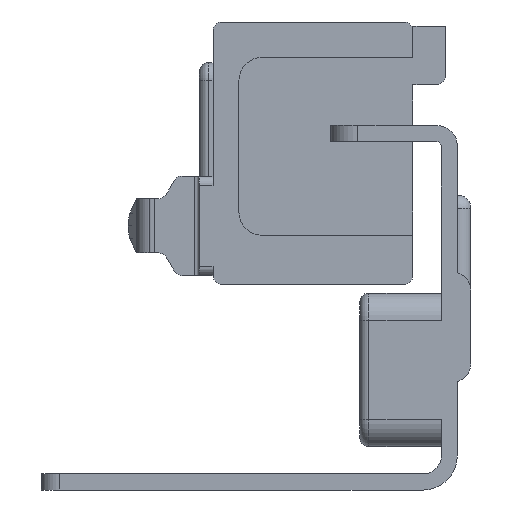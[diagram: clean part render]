
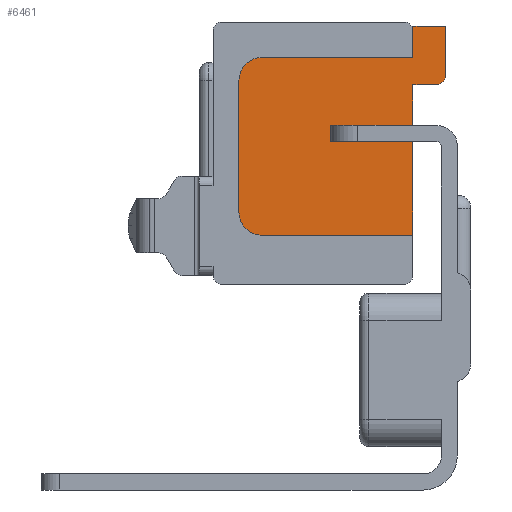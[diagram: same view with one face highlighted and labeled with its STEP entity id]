
A CAD part, left-side view. The second image highlights one B-rep face of the part: STEP entity #6461.
In plain terms, the highlighted planar face has unit normal (-1, 0, 0).
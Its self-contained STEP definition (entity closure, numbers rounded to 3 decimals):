
#41 = ORIENTED_EDGE ( 'NONE', *, *, #593, .F. ) ;
#144 = CARTESIAN_POINT ( 'NONE',  ( -4.3, 1.33, 81.555 ) ) ;
#180 = AXIS2_PLACEMENT_3D ( 'NONE', #1366, #5169, #1924 ) ;
#260 = EDGE_CURVE ( 'NONE', #5432, #3823, #2882, .T. ) ;
#285 = VECTOR ( 'NONE', #4503, 1000. ) ;
#545 = VECTOR ( 'NONE', #6282, 1000. ) ;
#553 = VECTOR ( 'NONE', #1049, 1000. ) ;
#559 = VECTOR ( 'NONE', #2326, 1000. ) ;
#593 = EDGE_CURVE ( 'NONE', #735, #2697, #6640, .T. ) ;
#614 = DIRECTION ( 'NONE',  ( 0., 0., 1. ) ) ;
#735 = VERTEX_POINT ( 'NONE', #2956 ) ;
#818 = ORIENTED_EDGE ( 'NONE', *, *, #4482, .T. ) ;
#833 = PLANE ( 'NONE',  #1270 ) ;
#855 = CARTESIAN_POINT ( 'NONE',  ( -4.3, 4.9, 77.06 ) ) ;
#897 = VECTOR ( 'NONE', #4559, 1000. ) ;
#903 = VECTOR ( 'NONE', #905, 1000. ) ;
#905 = DIRECTION ( 'NONE',  ( 0., 0., -1. ) ) ;
#1001 = VERTEX_POINT ( 'NONE', #3418 ) ;
#1049 = DIRECTION ( 'NONE',  ( 0., -1., 0. ) ) ;
#1064 = FACE_OUTER_BOUND ( 'NONE', #1957, .T. ) ;
#1214 = CARTESIAN_POINT ( 'NONE',  ( -4.3, 2.33, 81.555 ) ) ;
#1217 = AXIS2_PLACEMENT_3D ( 'NONE', #4868, #1607, #5407 ) ;
#1231 = CARTESIAN_POINT ( 'NONE',  ( -4.3, 12.15, 75.29 ) ) ;
#1235 = ORIENTED_EDGE ( 'NONE', *, *, #1706, .T. ) ;
#1262 = CARTESIAN_POINT ( 'NONE',  ( -4.3, 4.9, 84.555 ) ) ;
#1270 = AXIS2_PLACEMENT_3D ( 'NONE', #3000, #5699, #2476 ) ;
#1305 = EDGE_CURVE ( 'NONE', #4765, #3116, #6942, .T. ) ;
#1307 = VECTOR ( 'NONE', #6499, 1000. ) ;
#1366 = CARTESIAN_POINT ( 'NONE',  ( -4.3, 21.63, 82.055 ) ) ;
#1399 = ORIENTED_EDGE ( 'NONE', *, *, #5243, .F. ) ;
#1400 = VERTEX_POINT ( 'NONE', #6420 ) ;
#1507 = EDGE_CURVE ( 'NONE', #6493, #3116, #3089, .T. ) ;
#1607 = DIRECTION ( 'NONE',  ( 1., 0., 0. ) ) ;
#1706 = EDGE_CURVE ( 'NONE', #5479, #1400, #1718, .T. ) ;
#1718 = LINE ( 'NONE', #144, #3009 ) ;
#1719 = DIRECTION ( 'NONE',  ( 0., 0., 1. ) ) ;
#1732 = ORIENTED_EDGE ( 'NONE', *, *, #3566, .T. ) ;
#1924 = DIRECTION ( 'NONE',  ( 0., 0., 1. ) ) ;
#1957 = EDGE_LOOP ( 'NONE', ( #2696, #2354, #1732, #1399, #1235, #818, #41, #6272, #5436, #4862, #4336, #4008, #3752, #3510, #2829 ) ) ;
#2068 = VECTOR ( 'NONE', #3726, 1000. ) ;
#2301 = CARTESIAN_POINT ( 'NONE',  ( -4.3, 4.9, 64.925 ) ) ;
#2326 = DIRECTION ( 'NONE',  ( 0., 0., 1. ) ) ;
#2354 = ORIENTED_EDGE ( 'NONE', *, *, #2621, .T. ) ;
#2476 = DIRECTION ( 'NONE',  ( 0., 0., 1. ) ) ;
#2621 = EDGE_CURVE ( 'NONE', #6493, #1001, #6290, .T. ) ;
#2696 = ORIENTED_EDGE ( 'NONE', *, *, #1507, .F. ) ;
#2697 = VERTEX_POINT ( 'NONE', #3465 ) ;
#2713 = CARTESIAN_POINT ( 'NONE',  ( -4.3, 4.9, 64.925 ) ) ;
#2829 = ORIENTED_EDGE ( 'NONE', *, *, #1305, .T. ) ;
#2882 = LINE ( 'NONE', #4418, #5008 ) ;
#2956 = CARTESIAN_POINT ( 'NONE',  ( -4.3, 4.9, 84.555 ) ) ;
#3000 = CARTESIAN_POINT ( 'NONE',  ( -4.3, 21.53, 73.625 ) ) ;
#3009 = VECTOR ( 'NONE', #1719, 1000. ) ;
#3089 = LINE ( 'NONE', #5454, #1307 ) ;
#3116 = VERTEX_POINT ( 'NONE', #6169 ) ;
#3143 = DIRECTION ( 'NONE',  ( -1., 0., 0. ) ) ;
#3164 = CARTESIAN_POINT ( 'NONE',  ( -4.3, 24.13, 67.425 ) ) ;
#3165 = LINE ( 'NONE', #1262, #285 ) ;
#3309 = EDGE_CURVE ( 'NONE', #4765, #4086, #3438, .T. ) ;
#3418 = CARTESIAN_POINT ( 'NONE',  ( -4.3, 4.9, 81.555 ) ) ;
#3438 = LINE ( 'NONE', #1231, #553 ) ;
#3465 = CARTESIAN_POINT ( 'NONE',  ( -4.3, 4.9, 88.025 ) ) ;
#3507 = VECTOR ( 'NONE', #6708, 1000. ) ;
#3510 = ORIENTED_EDGE ( 'NONE', *, *, #3309, .F. ) ;
#3566 = EDGE_CURVE ( 'NONE', #1001, #5417, #5778, .T. ) ;
#3726 = DIRECTION ( 'NONE',  ( 0., -1., 0. ) ) ;
#3752 = ORIENTED_EDGE ( 'NONE', *, *, #5567, .F. ) ;
#3785 = EDGE_CURVE ( 'NONE', #3823, #5464, #5202, .T. ) ;
#3823 = VERTEX_POINT ( 'NONE', #3164 ) ;
#3965 = AXIS2_PLACEMENT_3D ( 'NONE', #6356, #3143, #6884 ) ;
#4008 = ORIENTED_EDGE ( 'NONE', *, *, #4292, .T. ) ;
#4011 = LINE ( 'NONE', #5117, #3507 ) ;
#4083 = EDGE_CURVE ( 'NONE', #735, #4928, #3165, .T. ) ;
#4086 = VERTEX_POINT ( 'NONE', #5585 ) ;
#4195 = CARTESIAN_POINT ( 'NONE',  ( -4.3, 20.06, 81.555 ) ) ;
#4214 = CIRCLE ( 'NONE', #1217, 1. ) ;
#4292 = EDGE_CURVE ( 'NONE', #5464, #6318, #4860, .T. ) ;
#4336 = ORIENTED_EDGE ( 'NONE', *, *, #3785, .T. ) ;
#4418 = CARTESIAN_POINT ( 'NONE',  ( -4.3, 24.13, 67.425 ) ) ;
#4466 = CARTESIAN_POINT ( 'NONE',  ( -4.3, 4.9, 88.025 ) ) ;
#4482 = EDGE_CURVE ( 'NONE', #1400, #2697, #4011, .T. ) ;
#4503 = DIRECTION ( 'NONE',  ( 0., 1., 0. ) ) ;
#4559 = DIRECTION ( 'NONE',  ( 0., 0., 1. ) ) ;
#4660 = DIRECTION ( 'NONE',  ( 0., 0., -1. ) ) ;
#4726 = CARTESIAN_POINT ( 'NONE',  ( -4.3, 4.9, 73.625 ) ) ;
#4765 = VERTEX_POINT ( 'NONE', #6933 ) ;
#4860 = LINE ( 'NONE', #5744, #545 ) ;
#4862 = ORIENTED_EDGE ( 'NONE', *, *, #260, .T. ) ;
#4868 = CARTESIAN_POINT ( 'NONE',  ( -4.3, 2.33, 82.555 ) ) ;
#4928 = VERTEX_POINT ( 'NONE', #6130 ) ;
#5008 = VECTOR ( 'NONE', #4660, 1000. ) ;
#5033 = CARTESIAN_POINT ( 'NONE',  ( -4.3, 24.13, 82.055 ) ) ;
#5117 = CARTESIAN_POINT ( 'NONE',  ( -4.3, 1.33, 88.025 ) ) ;
#5169 = DIRECTION ( 'NONE',  ( -1., 0., 0. ) ) ;
#5173 = CARTESIAN_POINT ( 'NONE',  ( -4.3, 1.33, 82.555 ) ) ;
#5202 = CIRCLE ( 'NONE', #3965, 2.5 ) ;
#5243 = EDGE_CURVE ( 'NONE', #5479, #5417, #4214, .T. ) ;
#5393 = LINE ( 'NONE', #4726, #903 ) ;
#5407 = DIRECTION ( 'NONE',  ( 0., 0., 1. ) ) ;
#5417 = VERTEX_POINT ( 'NONE', #1214 ) ;
#5432 = VERTEX_POINT ( 'NONE', #5033 ) ;
#5436 = ORIENTED_EDGE ( 'NONE', *, *, #6459, .T. ) ;
#5454 = CARTESIAN_POINT ( 'NONE',  ( -4.3, 12.42, 77.06 ) ) ;
#5464 = VERTEX_POINT ( 'NONE', #6740 ) ;
#5479 = VERTEX_POINT ( 'NONE', #5173 ) ;
#5538 = CIRCLE ( 'NONE', #180, 2.5 ) ;
#5567 = EDGE_CURVE ( 'NONE', #4086, #6318, #5393, .T. ) ;
#5585 = CARTESIAN_POINT ( 'NONE',  ( -4.3, 4.9, 75.29 ) ) ;
#5699 = DIRECTION ( 'NONE',  ( 1., 0., 0. ) ) ;
#5744 = CARTESIAN_POINT ( 'NONE',  ( -4.3, 21.53, 64.925 ) ) ;
#5778 = LINE ( 'NONE', #4195, #2068 ) ;
#6130 = CARTESIAN_POINT ( 'NONE',  ( -4.3, 21.63, 84.555 ) ) ;
#6169 = CARTESIAN_POINT ( 'NONE',  ( -4.3, 14., 77.06 ) ) ;
#6272 = ORIENTED_EDGE ( 'NONE', *, *, #4083, .T. ) ;
#6282 = DIRECTION ( 'NONE',  ( 0., -1., 0. ) ) ;
#6290 = LINE ( 'NONE', #2301, #559 ) ;
#6318 = VERTEX_POINT ( 'NONE', #2713 ) ;
#6356 = CARTESIAN_POINT ( 'NONE',  ( -4.3, 21.63, 67.425 ) ) ;
#6420 = CARTESIAN_POINT ( 'NONE',  ( -4.3, 1.33, 88.025 ) ) ;
#6459 = EDGE_CURVE ( 'NONE', #4928, #5432, #5538, .T. ) ;
#6461 = ADVANCED_FACE ( 'NONE', ( #1064 ), #833, .F. ) ;
#6493 = VERTEX_POINT ( 'NONE', #855 ) ;
#6499 = DIRECTION ( 'NONE',  ( 0., 1., 0. ) ) ;
#6620 = CARTESIAN_POINT ( 'NONE',  ( -4.3, 14., 75.29 ) ) ;
#6640 = LINE ( 'NONE', #4466, #897 ) ;
#6708 = DIRECTION ( 'NONE',  ( 0., 1., 0. ) ) ;
#6740 = CARTESIAN_POINT ( 'NONE',  ( -4.3, 21.63, 64.925 ) ) ;
#6775 = VECTOR ( 'NONE', #614, 1000. ) ;
#6884 = DIRECTION ( 'NONE',  ( 0., 0., 1. ) ) ;
#6933 = CARTESIAN_POINT ( 'NONE',  ( -4.3, 14., 75.29 ) ) ;
#6942 = LINE ( 'NONE', #6620, #6775 ) ;
